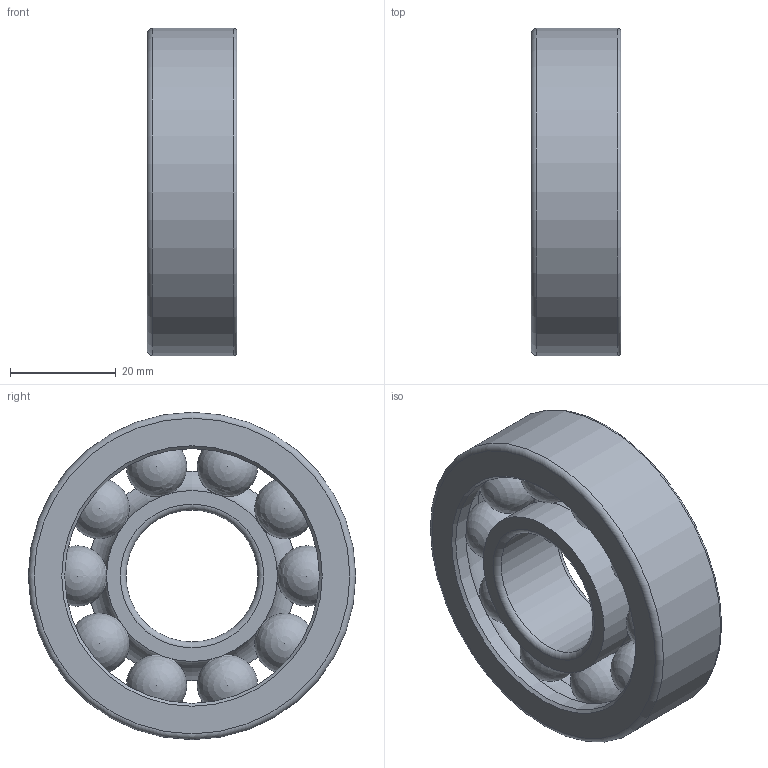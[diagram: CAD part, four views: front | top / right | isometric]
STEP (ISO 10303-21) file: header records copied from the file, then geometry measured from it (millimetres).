
FILE_DESCRIPTION( ( 'STEP AP203' ), ' ' );
FILE_NAME( 'p:/temp/worker_652/4928_2896/app_40_02018022009145868908944192d056f_000000_00_00_000000/format_0/7305 BECBM.stp', '2018-02-20T08:14:59', ( '' ), ( '' ), ' ', 'PARTsolutions', ' ' );
FILE_SCHEMA( ( 'CONFIG_CONTROL_DESIGN' ) );
Length unit declared in the file: millimetre
Products named in the file (4): 7305 BECBM; _7305 BECBM_PART1; _7305 BECBM_PART2; _7305 BECBM_PART3
Assembly tree (12 placements, depth 2):
  7305 BECBM
    _7305 BECBM_PART1
    _7305 BECBM_PART2
    _7305 BECBM_PART3  x10
Bounding box: 17 x 62 x 62 mm (x, y, z)
Volume: 28918.6 mm3; surface area: 16505.9 mm2
Topology: 12 solids, 12 shells, 28 faces, 62 edges, 38 vertices
Faces by surface type: sphere 10, torus 7, cylinder 6, plane 4, cone 1
Full cylindrical faces by diameter (mm): 25 x1, 32.38 x1, 39.65 x1, 48.25 x1, 54.79 x1, 62 x1
Entity records: 603 total; most frequent: DIRECTION 100, CARTESIAN_POINT 71, AXIS2_PLACEMENT_3D 50, EDGE_LOOP 36, ORIENTED_EDGE 36, FACE_OUTER_BOUND 31, VERTEX_POINT 21, ADVANCED_FACE 19
